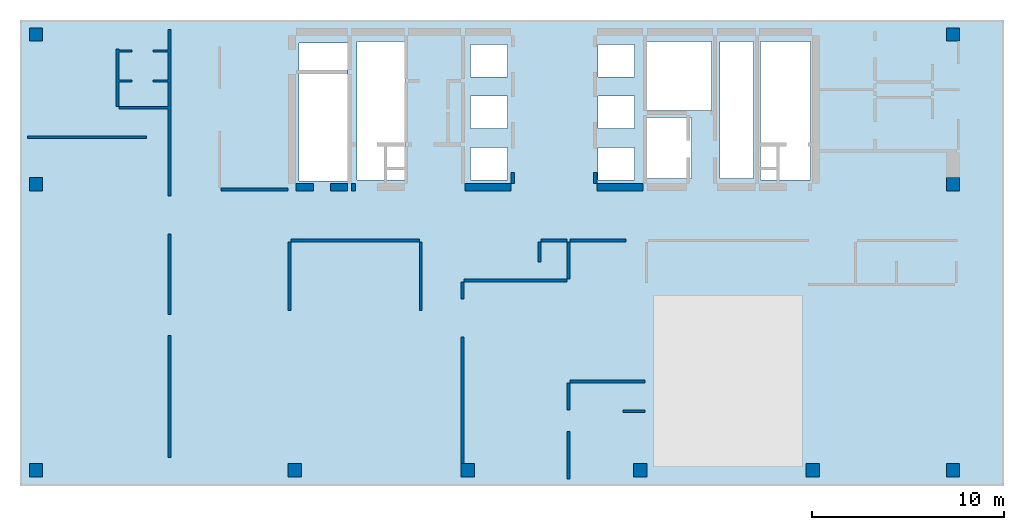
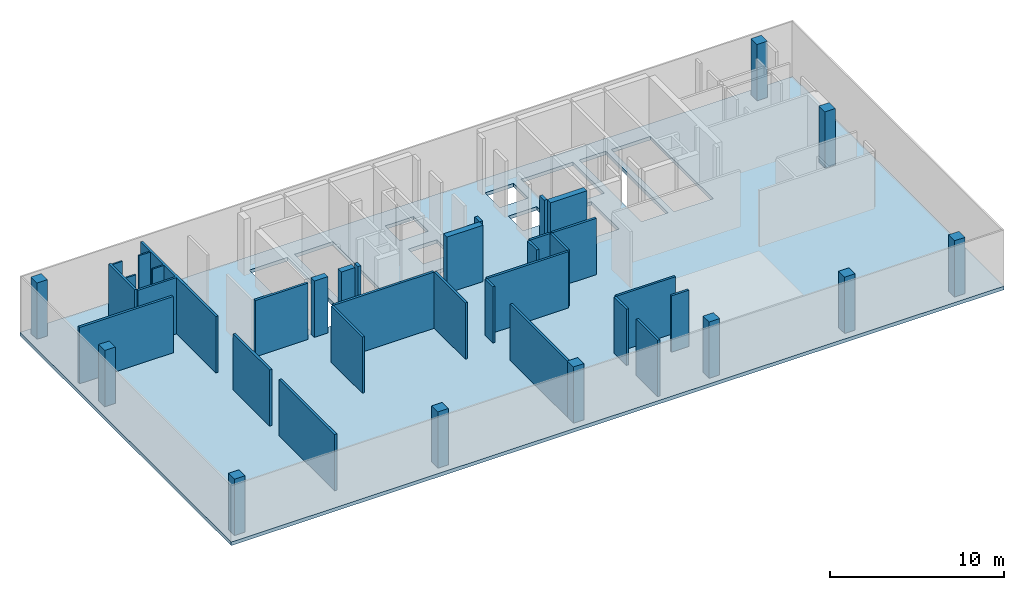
# One storey, part 1 of 5: 27 walls, 10 columns, 1 slab.
"""IFC4 building model written with IfcOpenShell, lengths in millimetres."""

from ifc_helpers import new_model, si_unit, frame, origin, place, context, project, spatial, triangles, element, save


model = new_model("IFC4")

# Units and contexts
model_context = context("Model", 3, precision=0.001, world=origin())
ifc_project = project(units=[si_unit("LENGTHUNIT", "METRE", prefix="MILLI"), si_unit("AREAUNIT", "SQUARE_METRE"), si_unit("VOLUMEUNIT", "CUBIC_METRE")], contexts=[model_context])

# Site, building, storey
site_placement = place(None, origin())
site = spatial("IfcSite", under=ifc_project, at=site_placement, Name="Site", CompositionType="ELEMENT")
building_placement = place(site_placement, origin())
building = spatial("IfcBuilding", under=site, at=building_placement, Name="INNOCEAN", CompositionType="ELEMENT")
storey_placement = place(building_placement, frame((0.0, 0.0, 76400.0)))
storey = spatial("IfcBuildingStorey", under=building, at=storey_placement, Name="F18", CompositionType="ELEMENT", Elevation=76400.0)

# Columns
column_1_placement = place(storey_placement, origin())
element("IfcColumn", 1, at=column_1_placement, inside=storey, Name="F18_Columns_F18_001", context=model_context, shape_type="Tessellation", body=[
    triangles([(40114.8, 2023.7, 0.0), (40114.8, 2023.7, 3950.0), (40114.8, 2722.3, 0.0), (40114.8, 2722.3, 3950.0), (40813.0, 2023.7, 3950.0), (40813.0, 2023.7, 0.0), (40813.0, 2722.3, 0.0), (40813.0, 2722.3, 3950.0)], [[1, 2, 3], [3, 2, 4], [5, 6, 7], [5, 7, 8], [6, 5, 1], [1, 5, 2], [8, 7, 3], [8, 3, 4], [3, 7, 1], [1, 7, 6], [8, 4, 2], [8, 2, 5]], closed=True),
])
column_2_placement = place(storey_placement, origin())
element("IfcColumn", 2, at=column_2_placement, inside=storey, Name="F18_Columns_F18_002", context=model_context, shape_type="Tessellation", body=[
    triangles([(47413.4, 24721.0, 0.0), (47413.4, 24721.0, 3950.0), (47413.4, 25419.5, 0.0), (47413.4, 25419.5, 3950.0), (48111.6, 24721.0, 3950.0), (48111.6, 24721.0, 0.0), (48111.6, 25419.5, 0.0), (48111.6, 25419.5, 3950.0)], [[1, 2, 3], [3, 2, 4], [5, 6, 7], [5, 7, 8], [6, 5, 1], [1, 5, 2], [8, 7, 3], [8, 3, 4], [1, 3, 6], [3, 7, 6], [4, 2, 5], [8, 4, 5]], closed=True),
])
column_3_placement = place(storey_placement, origin())
element("IfcColumn", 3, at=column_3_placement, inside=storey, Name="F18_Columns_F18_003", context=model_context, shape_type="Tessellation", body=[
    triangles([(47413.4, 16922.4, 0.0), (47413.4, 16922.4, 3950.0), (47413.4, 17620.9, 0.0), (47413.4, 17620.9, 3950.0), (48111.6, 16922.4, 3950.0), (48111.6, 16922.4, 0.0), (48111.6, 17620.9, 0.0), (48111.6, 17620.9, 3950.0)], [[1, 2, 3], [3, 2, 4], [5, 6, 7], [5, 7, 8], [6, 5, 1], [1, 5, 2], [8, 7, 3], [8, 3, 4], [1, 3, 6], [3, 7, 6], [4, 2, 5], [8, 4, 5]], closed=True),
])
column_4_placement = place(storey_placement, origin())
element("IfcColumn", 4, at=column_4_placement, inside=storey, Name="F18_Columns_F18_004", context=model_context, shape_type="Tessellation", body=[
    triangles([(13129.0, 2023.7, 0.0), (13129.0, 2023.7, 3950.0), (13129.0, 2722.3, 0.0), (13129.0, 2722.3, 3950.0), (13827.2, 2023.7, 3950.0), (13827.2, 2023.7, 0.0), (13827.2, 2722.3, 0.0), (13827.2, 2722.3, 3950.0)], [[1, 2, 3], [3, 2, 4], [5, 6, 7], [5, 7, 8], [6, 5, 1], [1, 5, 2], [8, 7, 3], [8, 3, 4], [3, 7, 1], [1, 7, 6], [8, 4, 2], [8, 2, 5]], closed=True),
])
column_5_placement = place(storey_placement, origin())
element("IfcColumn", 5, at=column_5_placement, inside=storey, Name="F18_Columns_F18_005", context=model_context, shape_type="Tessellation", body=[
    triangles([(47413.4, 2023.7, 0.0), (47413.4, 2023.7, 3950.0), (47413.4, 2722.3, 0.0), (47413.4, 2722.3, 3950.0), (48111.6, 2023.7, 3950.0), (48111.6, 2023.7, 0.0), (48111.6, 2722.3, 0.0), (48111.6, 2722.3, 3950.0)], [[1, 2, 3], [3, 2, 4], [5, 6, 7], [5, 7, 8], [6, 5, 1], [1, 5, 2], [8, 7, 3], [8, 3, 4], [3, 7, 1], [1, 7, 6], [8, 4, 2], [8, 2, 5]], closed=True),
])
column_6_placement = place(storey_placement, origin())
element("IfcColumn", 6, at=column_6_placement, inside=storey, Name="F18_Columns_F18_006", context=model_context, shape_type="Tessellation", body=[
    triangles([(-363.9, 2023.7, 0.0), (-363.9, 2023.7, 3950.0), (-363.9, 2722.3, 0.0), (-363.9, 2722.3, 3950.0), (334.3, 2023.7, 3950.0), (334.3, 2023.7, 0.0), (334.3, 2722.3, 0.0), (334.3, 2722.3, 3950.0)], [[1, 2, 3], [3, 2, 4], [5, 6, 7], [5, 7, 8], [6, 5, 1], [1, 5, 2], [8, 7, 3], [8, 3, 4], [3, 7, 1], [1, 7, 6], [8, 4, 2], [8, 2, 5]], closed=True),
])
column_7_placement = place(storey_placement, origin())
element("IfcColumn", 7, at=column_7_placement, inside=storey, Name="F18_Columns_F18_007", context=model_context, shape_type="Tessellation", body=[
    triangles([(-363.9, 24721.0, 0.0), (-363.9, 24721.0, 3950.0), (-363.9, 25419.5, 0.0), (-363.9, 25419.5, 3950.0), (334.3, 24721.0, 3950.0), (334.3, 24721.0, 0.0), (334.3, 25419.5, 0.0), (334.3, 25419.5, 3950.0)], [[1, 2, 3], [3, 2, 4], [5, 6, 7], [5, 7, 8], [6, 5, 1], [1, 5, 2], [8, 7, 3], [8, 3, 4], [3, 7, 1], [1, 7, 6], [8, 4, 2], [8, 2, 5]], closed=True),
])
column_8_placement = place(storey_placement, origin())
element("IfcColumn", 8, at=column_8_placement, inside=storey, Name="F18_Columns_F18_008", context=model_context, shape_type="Tessellation", body=[
    triangles([(31128.0, 2023.7, 0.0), (31128.0, 2023.7, 3950.0), (31128.0, 2722.3, 0.0), (31128.0, 2722.3, 3950.0), (31826.2, 2023.7, 3950.0), (31826.2, 2023.7, 0.0), (31826.2, 2722.3, 0.0), (31826.2, 2722.3, 3950.0)], [[1, 2, 3], [3, 2, 4], [5, 6, 7], [5, 7, 8], [6, 5, 1], [1, 5, 2], [8, 7, 3], [8, 3, 4], [3, 7, 1], [1, 7, 6], [8, 4, 2], [8, 2, 5]], closed=True),
])
column_9_placement = place(storey_placement, origin())
element("IfcColumn", 9, at=column_9_placement, inside=storey, Name="F18_Columns_F18_009", context=model_context, shape_type="Tessellation", body=[
    triangles([(22128.5, 2023.7, 0.0), (22128.5, 2023.7, 3950.0), (22128.5, 2722.3, 0.0), (22128.5, 2722.3, 3950.0), (22826.7, 2023.7, 3950.0), (22826.7, 2023.7, 0.0), (22826.7, 2722.3, 0.0), (22826.7, 2722.3, 3950.0)], [[1, 2, 3], [3, 2, 4], [5, 6, 7], [5, 7, 8], [6, 5, 1], [1, 5, 2], [8, 7, 3], [8, 3, 4], [3, 7, 1], [1, 7, 6], [8, 4, 2], [8, 2, 5]], closed=True),
])
column_10_placement = place(storey_placement, origin())
element("IfcColumn", 10, at=column_10_placement, inside=storey, Name="F18_Columns_F18_010", context=model_context, shape_type="Tessellation", body=[
    triangles([(-363.9, 16922.4, 0.0), (-363.9, 16922.4, 3950.0), (-363.9, 17620.9, 0.0), (-363.9, 17620.9, 3950.0), (334.3, 16922.4, 3950.0), (334.3, 16922.4, 0.0), (334.3, 17620.9, 0.0), (334.3, 17620.9, 3950.0)], [[1, 2, 3], [3, 2, 4], [5, 6, 7], [5, 7, 8], [6, 5, 1], [1, 5, 2], [8, 7, 3], [8, 3, 4], [3, 7, 1], [1, 7, 6], [8, 4, 2], [8, 2, 5]], closed=True),
])

# Slab
slab_placement = place(storey_placement, origin())
element("IfcSlab", 11, at=slab_placement, inside=storey, Name="F18_Slab_F18_001", context=model_context, shape_type="Tessellation", body=[
    triangles([(-846.215139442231, 25825.974025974, 0.0), (50420.3187250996, 25825.974025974, -250.0), (-846.215139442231, 25825.974025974, -250.0), (50420.3187250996, 25825.974025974, 0.0), (-846.215139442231, 1552.38095238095, 0.0), (-846.215139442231, 1552.38095238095, -250.0), (50420.3187250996, 1552.38095238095, 0.0), (50420.3187250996, 1552.38095238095, -250.0), (34130.6772908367, 20745.4545454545, -250.0), (31733.0677290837, 20745.4545454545, 0.0), (31733.0677290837, 20745.4545454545, -250.0), (34130.6772908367, 20745.4545454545, 0.0), (31733.0677290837, 17570.1298701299, 0.0), (31733.0677290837, 17570.1298701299, -250.0), (34130.6772908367, 17570.1298701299, 0.0), (34130.6772908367, 17570.1298701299, -250.0), (31168.9243027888, 19193.0735930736, 0.0), (29264.9402390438, 19193.0735930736, 0.0), (29264.9402390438, 19193.0735930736, -250.0), (31168.9243027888, 19193.0735930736, -250.0), (31168.9243027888, 17499.5670995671, 0.0), (31168.9243027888, 17499.5670995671, -250.0), (29264.9402390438, 17499.5670995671, 0.0), (29264.9402390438, 17499.5670995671, -250.0), (31168.9243027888, 21874.4588744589, 0.0), (29264.9402390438, 21874.4588744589, 0.0), (29264.9402390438, 21874.4588744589, -250.0), (31168.9243027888, 21874.4588744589, -250.0), (29264.9402390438, 20180.9523809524, 0.0), (29264.9402390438, 20180.9523809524, -250.0), (31168.9243027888, 20180.9523809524, 0.0), (31168.9243027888, 20180.9523809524, -250.0), (24540.2390438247, 19193.0735930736, -250.0), (22636.2549800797, 19193.0735930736, 0.0), (22636.2549800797, 19193.0735930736, -250.0), (24540.2390438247, 19193.0735930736, 0.0), (22636.2549800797, 17499.5670995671, 0.0), (22636.2549800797, 17499.5670995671, -250.0), (24540.2390438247, 17499.5670995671, 0.0), (24540.2390438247, 17499.5670995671, -250.0), (24540.2390438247, 21874.4588744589, -250.0), (22636.2549800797, 21874.4588744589, 0.0), (22636.2549800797, 21874.4588744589, -250.0), (24540.2390438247, 21874.4588744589, 0.0), (22636.2549800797, 20180.9523809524, 0.0), (22636.2549800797, 20180.9523809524, -250.0), (24540.2390438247, 20180.9523809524, 0.0), (24540.2390438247, 20180.9523809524, -250.0), (16219.1235059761, 24626.4069264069, 0.0), (13680.4780876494, 24626.4069264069, 0.0), (13680.4780876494, 24626.4069264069, -250.0), (16219.1235059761, 24626.4069264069, -250.0), (13680.4780876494, 17429.0043290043, 0.0), (13680.4780876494, 17429.0043290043, -250.0), (16219.1235059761, 17429.0043290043, 0.0), (16219.1235059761, 17429.0043290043, -250.0), (40336.2549800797, 24696.9696969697, -250.0), (37727.0916334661, 24696.9696969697, 0.0), (37727.0916334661, 24696.9696969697, -250.0), (40336.2549800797, 24696.9696969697, 0.0), (37727.0916334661, 17499.5670995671, 0.0), (37727.0916334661, 17499.5670995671, -250.0), (40336.2549800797, 17499.5670995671, 0.0), (40336.2549800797, 17499.5670995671, -250.0), (37374.5019920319, 24696.9696969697, 0.0), (35611.5537848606, 24696.9696969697, 0.0), (35611.5537848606, 24696.9696969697, -250.0), (37374.5019920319, 24696.9696969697, -250.0), (35611.5537848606, 17570.1298701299, 0.0), (35611.5537848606, 17570.1298701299, -250.0), (37374.5019920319, 17570.1298701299, 0.0), (37374.5019920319, 17570.1298701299, -250.0), (35188.4462151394, 24696.9696969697, 0.0), (31733.0677290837, 24696.9696969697, 0.0), (31733.0677290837, 24696.9696969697, -250.0), (35188.4462151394, 24696.9696969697, -250.0), (31733.0677290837, 21098.2683982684, 0.0), (31733.0677290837, 21098.2683982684, -250.0), (35188.4462151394, 21098.2683982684, 0.0), (35188.4462151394, 21098.2683982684, -250.0), (31168.9243027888, 24555.8441558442, 0.0), (29264.9402390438, 24555.8441558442, 0.0), (29264.9402390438, 24555.8441558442, -250.0), (31168.9243027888, 24555.8441558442, -250.0), (29264.9402390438, 22862.3376623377, 0.0), (29264.9402390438, 22862.3376623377, -250.0), (31168.9243027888, 22862.3376623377, 0.0), (31168.9243027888, 22862.3376623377, -250.0), (19251.3944223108, 24696.9696969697, 0.0), (16712.7490039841, 24696.9696969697, 0.0), (16712.7490039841, 24696.9696969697, -250.0), (19251.3944223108, 24696.9696969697, -250.0), (16712.7490039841, 17499.5670995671, 0.0), (16712.7490039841, 17499.5670995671, -250.0), (19251.3944223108, 17499.5670995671, 0.0), (19251.3944223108, 17499.5670995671, -250.0), (24540.2390438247, 24555.8441558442, -250.0), (22636.2549800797, 24555.8441558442, 0.0), (22636.2549800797, 24555.8441558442, -250.0), (24540.2390438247, 24555.8441558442, 0.0), (22636.2549800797, 22862.3376623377, 0.0), (22636.2549800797, 22862.3376623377, -250.0), (24540.2390438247, 22862.3376623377, 0.0), (24540.2390438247, 22862.3376623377, -250.0)], [[1, 2, 3], [1, 4, 2], [5, 1, 6], [6, 1, 3], [4, 7, 2], [2, 7, 8], [7, 6, 8], [7, 5, 6], [9, 10, 11], [12, 10, 9], [10, 13, 14], [10, 14, 11], [15, 12, 9], [15, 9, 16], [14, 15, 16], [13, 15, 14], [17, 18, 19], [17, 19, 20], [21, 17, 20], [21, 20, 22], [23, 21, 22], [23, 22, 24], [18, 23, 24], [18, 24, 19], [25, 26, 27], [25, 27, 28], [26, 29, 30], [26, 30, 27], [31, 25, 28], [31, 28, 32], [29, 31, 32], [29, 32, 30], [33, 34, 35], [36, 34, 33], [34, 37, 38], [34, 38, 35], [39, 36, 33], [39, 33, 40], [38, 39, 40], [37, 39, 38], [41, 42, 43], [44, 42, 41], [42, 45, 46], [42, 46, 43], [47, 44, 41], [47, 41, 48], [46, 47, 48], [45, 47, 46], [49, 50, 51], [49, 51, 52], [50, 53, 54], [50, 54, 51], [55, 49, 52], [55, 52, 56], [53, 55, 56], [53, 56, 54], [57, 58, 59], [60, 58, 57], [58, 61, 62], [58, 62, 59], [63, 60, 57], [63, 57, 64], [62, 63, 64], [61, 63, 62], [65, 66, 67], [65, 67, 68], [66, 69, 70], [66, 70, 67], [71, 65, 68], [71, 68, 72], [69, 71, 72], [69, 72, 70], [73, 74, 75], [73, 75, 76], [74, 77, 78], [74, 78, 75], [79, 73, 76], [79, 76, 80], [77, 79, 80], [77, 80, 78], [81, 82, 83], [81, 83, 84], [82, 85, 86], [82, 86, 83], [87, 81, 84], [87, 84, 88], [85, 87, 88], [85, 88, 86], [89, 90, 91], [89, 91, 92], [90, 93, 94], [90, 94, 91], [95, 89, 92], [95, 92, 96], [93, 95, 96], [93, 96, 94], [97, 98, 99], [100, 98, 97], [98, 101, 102], [98, 102, 99], [103, 100, 97], [103, 97, 104], [102, 103, 104], [101, 103, 102], [4, 63, 7], [63, 61, 7], [61, 69, 7], [71, 69, 61], [69, 15, 7], [4, 60, 63], [13, 21, 15], [15, 21, 7], [79, 12, 69], [69, 12, 15], [13, 17, 21], [21, 23, 7], [17, 10, 31], [12, 77, 10], [10, 77, 31], [66, 73, 79], [31, 18, 17], [77, 25, 31], [31, 29, 18], [77, 87, 25], [23, 39, 7], [74, 81, 87], [25, 85, 26], [87, 85, 25], [29, 36, 18], [18, 36, 23], [23, 36, 39], [74, 82, 81], [26, 47, 29], [29, 47, 36], [26, 44, 47], [36, 45, 34], [47, 45, 36], [34, 95, 37], [45, 95, 34], [85, 103, 26], [26, 103, 44], [103, 42, 44], [45, 42, 95], [85, 100, 103], [82, 100, 85], [103, 101, 42], [93, 55, 95], [39, 5, 7], [37, 5, 39], [95, 5, 37], [55, 5, 95], [55, 53, 5], [42, 89, 95], [101, 89, 42], [98, 89, 101], [90, 49, 93], [93, 49, 55], [90, 50, 49], [50, 1, 53], [53, 1, 5], [4, 1, 60], [60, 1, 58], [58, 1, 65], [65, 1, 66], [66, 1, 73], [73, 1, 74], [74, 1, 82], [82, 1, 100], [100, 1, 98], [98, 1, 89], [89, 1, 90], [90, 1, 50], [13, 10, 17], [69, 66, 79], [65, 71, 58], [58, 71, 61], [77, 74, 87], [79, 77, 12], [64, 2, 8], [62, 64, 8], [70, 62, 8], [70, 72, 62], [16, 70, 8], [57, 2, 64], [22, 14, 16], [22, 16, 8], [9, 80, 70], [9, 70, 16], [20, 14, 22], [24, 22, 8], [11, 20, 32], [78, 9, 11], [78, 11, 32], [76, 67, 80], [19, 32, 20], [28, 78, 32], [30, 32, 19], [88, 78, 28], [40, 24, 8], [84, 75, 88], [86, 28, 27], [86, 88, 28], [33, 30, 19], [33, 19, 24], [33, 24, 40], [83, 75, 84], [48, 27, 30], [48, 30, 33], [41, 27, 48], [46, 33, 35], [46, 48, 33], [96, 35, 38], [96, 46, 35], [104, 86, 27], [104, 27, 41], [43, 104, 41], [43, 46, 96], [97, 86, 104], [97, 83, 86], [102, 104, 43], [56, 94, 96], [6, 40, 8], [6, 38, 40], [6, 96, 38], [6, 56, 96], [54, 56, 6], [92, 43, 96], [92, 102, 43], [92, 99, 102], [52, 91, 94], [52, 94, 56], [51, 91, 52], [3, 51, 54], [3, 54, 6], [3, 2, 57], [3, 57, 59], [3, 59, 68], [3, 68, 67], [3, 67, 76], [3, 76, 75], [3, 75, 83], [3, 83, 97], [3, 97, 99], [3, 99, 92], [3, 92, 91], [3, 91, 51], [11, 14, 20], [67, 70, 80], [72, 68, 59], [72, 59, 62], [75, 78, 88], [78, 80, 9]], closed=True),
])

# Walls
wall_1_placement = place(storey_placement, origin())
element("IfcWall", 12, at=wall_1_placement, inside=storey, Name="F18_Walls_F18_001", context=model_context, shape_type="Tessellation", body=[
    triangles([(7010.0, 3027.1, 0.0), (7010.9, 3027.1, 0.0), (7010.9, 3027.1, 3950.0), (7010.0, 3027.1, 3950.0), (7010.0, 3025.0, 0.0), (7010.0, 3025.0, 3950.0), (6860.0, 3025.0, 3950.0), (6860.0, 3025.0, 0.0), (6860.0, 3027.1, 0.0), (6860.0, 3027.1, 3950.0), (6858.6, 3027.1, 3950.0), (6858.6, 3027.1, 0.0), (6858.6, 9390.5, 0.0), (6858.6, 9390.5, 3950.0), (7010.9, 9390.5, 0.0), (7010.9, 9390.5, 3950.0)], [[1, 2, 3], [1, 3, 4], [5, 1, 4], [5, 4, 6], [5, 6, 7], [8, 5, 7], [9, 8, 7], [9, 7, 10], [9, 10, 11], [12, 9, 11], [13, 12, 11], [13, 11, 14], [15, 13, 14], [15, 14, 16], [2, 15, 16], [2, 16, 3], [9, 1, 5], [9, 5, 8], [15, 2, 1], [15, 1, 9], [13, 9, 12], [13, 15, 9], [4, 10, 6], [6, 10, 7], [3, 16, 4], [4, 16, 10], [10, 14, 11], [16, 14, 10]], closed=True),
])
wall_2_placement = place(storey_placement, origin())
element("IfcWall", 13, at=wall_2_placement, inside=storey, Name="F18_Walls_F18_002", context=model_context, shape_type="Tessellation", body=[
    triangles([(13281.3, 10686.0, 0.0), (13281.3, 14267.8, 0.0), (13281.3, 14267.8, 3950.0), (13281.3, 10686.0, 3950.0), (13129.0, 10686.0, 0.0), (13129.0, 10686.0, 3950.0), (13129.0, 14267.8, 0.0), (13129.0, 14267.8, 3950.0)], [[1, 2, 3], [1, 3, 4], [5, 1, 4], [5, 4, 6], [7, 5, 6], [7, 6, 8], [2, 7, 8], [2, 8, 3], [2, 1, 5], [7, 2, 5], [4, 3, 6], [3, 8, 6]], closed=True),
])
wall_3_placement = place(storey_placement, origin())
element("IfcWall", 14, at=wall_3_placement, inside=storey, Name="F18_Walls_F18_003", context=model_context, shape_type="Tessellation", body=[
    triangles([(7010.9, 10495.5, 0.0), (7010.9, 14674.2, 0.0), (7010.9, 14674.2, 3950.0), (7010.9, 10495.5, 3950.0), (7010.0, 10495.5, 0.0), (7010.0, 10495.5, 3950.0), (7010.0, 10495.0, 0.0), (7010.0, 10495.0, 3950.0), (6860.0, 10495.0, 3950.0), (6860.0, 10495.0, 0.0), (6860.0, 10495.5, 0.0), (6860.0, 10495.5, 3950.0), (6858.6, 10495.5, 3950.0), (6858.6, 10495.5, 0.0), (6858.6, 14674.2, 0.0), (6858.6, 14674.2, 3950.0), (6860.0, 14674.2, 3950.0), (6860.0, 14674.2, 0.0), (6860.0, 14675.0, 0.0), (6860.0, 14675.0, 3950.0), (7010.0, 14675.0, 3950.0), (7010.0, 14675.0, 0.0), (7010.0, 14674.2, 0.0), (7010.0, 14674.2, 3950.0)], [[1, 2, 3], [1, 3, 4], [5, 1, 4], [5, 4, 6], [7, 5, 6], [7, 6, 8], [7, 8, 9], [10, 7, 9], [11, 10, 9], [11, 9, 12], [11, 12, 13], [14, 11, 13], [15, 14, 13], [15, 13, 16], [15, 16, 17], [18, 15, 17], [19, 18, 17], [19, 17, 20], [19, 20, 21], [22, 19, 21], [23, 22, 21], [23, 21, 24], [2, 23, 24], [2, 24, 3], [11, 5, 7], [11, 7, 10], [23, 2, 1], [23, 1, 5], [23, 5, 11], [18, 23, 11], [19, 22, 23], [19, 23, 18], [15, 11, 14], [15, 18, 11], [6, 12, 8], [8, 12, 9], [3, 24, 4], [4, 24, 6], [6, 24, 12], [24, 17, 12], [21, 20, 24], [24, 20, 17], [12, 16, 13], [17, 16, 12]], closed=True),
])
wall_4_placement = place(storey_placement, origin())
element("IfcWall", 15, at=wall_4_placement, inside=storey, Name="F18_Walls_F18_004", context=model_context, shape_type="Tessellation", body=[
    triangles([(19958.0, 14267.8, 0.0), (19958.0, 14420.2, 0.0), (19958.0, 14420.2, 3950.0), (19958.0, 14267.8, 3950.0), (13281.3, 14267.8, 0.0), (13281.3, 14267.8, 3950.0), (13281.3, 14420.2, 0.0), (13281.3, 14420.2, 3950.0)], [[1, 2, 3], [1, 3, 4], [5, 1, 4], [5, 4, 6], [7, 5, 6], [7, 6, 8], [3, 7, 8], [2, 7, 3], [7, 2, 1], [7, 1, 5], [3, 8, 4], [4, 8, 6]], closed=True),
])
wall_5_placement = place(storey_placement, origin())
element("IfcWall", 16, at=wall_5_placement, inside=storey, Name="F18_Walls_F18_005", context=model_context, shape_type="Tessellation", body=[
    triangles([(13129.0, 16922.4, 0.0), (13129.0, 17074.8, 0.0), (13129.0, 17074.8, 3950.0), (13129.0, 16922.4, 3950.0), (9638.4, 16922.4, 3950.0), (9638.4, 16922.4, 0.0), (9638.4, 17074.8, 0.0), (9638.4, 17074.8, 3950.0)], [[1, 2, 3], [1, 3, 4], [1, 4, 5], [6, 1, 5], [7, 6, 5], [7, 5, 8], [7, 8, 3], [2, 7, 3], [7, 2, 1], [7, 1, 6], [3, 8, 4], [4, 8, 5]], closed=True),
])
wall_6_placement = place(storey_placement, origin())
element("IfcWall", 17, at=wall_6_placement, inside=storey, Name="F18_Walls_F18_006", context=model_context, shape_type="Tessellation", body=[
    triangles([(16632.4, 16922.4, 0.0), (16632.4, 16922.4, 3950.0), (16429.3, 16922.4, 3950.0), (16429.3, 16922.4, 0.0), (16429.3, 17316.1, 3950.0), (16429.3, 17316.1, 0.0), (16632.4, 17316.1, 3950.0), (16632.4, 17316.1, 0.0)], [[1, 2, 3], [4, 1, 3], [4, 3, 5], [6, 4, 5], [6, 5, 7], [8, 6, 7], [8, 7, 2], [1, 8, 2], [6, 1, 4], [6, 8, 1], [2, 5, 3], [7, 5, 2]], closed=True),
])
wall_7_placement = place(storey_placement, origin())
element("IfcWall", 18, at=wall_7_placement, inside=storey, Name="F18_Walls_F18_007", context=model_context, shape_type="Tessellation", body=[
    triangles([(15337.6, 16922.4, 0.0), (16226.2, 16922.4, 0.0), (16226.2, 16922.4, 3950.0), (15337.6, 16922.4, 3950.0), (15337.6, 17316.1, 3950.0), (15337.6, 17316.1, 0.0), (16226.2, 17316.1, 0.0), (16226.2, 17316.1, 3950.0)], [[1, 2, 3], [1, 3, 4], [1, 4, 5], [6, 1, 5], [7, 6, 5], [7, 5, 8], [7, 8, 3], [2, 7, 3], [6, 2, 1], [6, 7, 2], [3, 5, 4], [8, 5, 3]], closed=True),
])
wall_8_placement = place(storey_placement, origin())
element("IfcWall", 19, at=wall_8_placement, inside=storey, Name="F18_Walls_F18_008", context=model_context, shape_type="Tessellation", body=[
    triangles([(14436.4, 17316.1, 0.0), (14436.4, 17316.1, 3950.0), (14436.4, 16922.4, 3950.0), (14436.4, 16922.4, 0.0), (13535.2, 16922.4, 0.0), (13535.2, 16922.4, 3950.0), (13535.2, 17316.1, 3950.0), (13535.2, 17316.1, 0.0)], [[1, 2, 3], [4, 1, 3], [5, 4, 3], [5, 3, 6], [5, 6, 7], [8, 5, 7], [1, 8, 7], [1, 7, 2], [8, 1, 4], [8, 4, 5], [2, 7, 3], [3, 7, 6]], closed=True),
])
wall_9_placement = place(storey_placement, origin())
element("IfcWall", 20, at=wall_9_placement, inside=storey, Name="F18_Walls_F18_012", context=model_context, shape_type="Tessellation", body=[
    triangles([(-465.0, 19640.4, 0.0), (-465.0, 19640.0, 0.0), (-465.0, 19640.0, 3950.0), (-465.0, 19640.4, 3950.0), (-465.4, 19640.4, 0.0), (-465.4, 19640.4, 3950.0), (-465.4, 19792.9, 0.0), (-465.4, 19792.9, 3950.0), (-465.0, 19792.9, 0.0), (-465.0, 19792.9, 3950.0), (-465.0, 19795.0, 0.0), (-465.0, 19795.0, 3950.0), (5755.0, 19795.0, 0.0), (5755.0, 19795.0, 3950.0), (5755.0, 19640.0, 3950.0), (5755.0, 19640.0, 0.0)], [[1, 2, 3], [1, 3, 4], [5, 1, 4], [5, 4, 6], [7, 5, 6], [7, 6, 8], [9, 7, 8], [9, 8, 10], [11, 9, 10], [11, 10, 12], [13, 11, 12], [13, 12, 14], [13, 14, 15], [16, 13, 15], [2, 16, 15], [2, 15, 3], [1, 16, 2], [9, 13, 16], [9, 16, 1], [7, 1, 5], [7, 9, 1], [11, 13, 9], [15, 4, 3], [14, 10, 15], [15, 10, 4], [4, 8, 6], [10, 8, 4], [14, 12, 10]], closed=True),
])
wall_10_placement = place(storey_placement, origin())
element("IfcWall", 21, at=wall_10_placement, inside=storey, Name="F18_Walls_F18_014", context=model_context, shape_type="Tessellation", body=[
    triangles([(6858.6, 22599.8, 0.0), (6858.6, 21317.0, 0.0), (6858.6, 21317.0, 3950.0), (6858.6, 22599.8, 3950.0), (6084.3, 22599.8, 0.0), (6084.3, 22599.8, 3950.0), (6084.3, 22701.5, 3950.0), (6084.3, 22701.5, 0.0), (6858.6, 22701.5, 0.0), (6858.6, 22701.5, 3950.0), (6858.6, 24149.4, 0.0), (6858.6, 24149.4, 3950.0), (6084.3, 24149.4, 0.0), (6084.3, 24149.4, 3950.0), (6084.3, 24251.0, 0.0), (6084.3, 24251.0, 3950.0), (6858.6, 24251.0, 0.0), (6858.6, 24251.0, 3950.0), (6858.6, 25317.9, 0.0), (6858.6, 25317.9, 3950.0), (6860.0, 25317.9, 3950.0), (6860.0, 25317.9, 0.0), (6860.0, 25320.0, 0.0), (6860.0, 25320.0, 3950.0), (7010.0, 25320.0, 3950.0), (7010.0, 25320.0, 0.0), (7010.0, 25317.9, 0.0), (7010.0, 25317.9, 3950.0), (7010.9, 25317.9, 0.0), (7010.9, 25317.9, 3950.0), (7010.9, 16668.3, 0.0), (7010.9, 16668.3, 3950.0), (6858.6, 16668.3, 0.0), (6858.6, 16668.3, 3950.0), (6858.6, 21177.3, 0.0), (6858.6, 21177.3, 3950.0), (4307.2, 21177.3, 3950.0), (4307.2, 21177.3, 0.0), (4307.2, 21317.0, 3950.0), (4307.2, 21317.0, 0.0)], [[1, 2, 3], [1, 3, 4], [5, 1, 4], [5, 4, 6], [5, 6, 7], [8, 5, 7], [9, 8, 7], [9, 7, 10], [11, 9, 10], [11, 10, 12], [13, 11, 12], [13, 12, 14], [15, 13, 14], [15, 14, 16], [17, 15, 16], [17, 16, 18], [19, 17, 18], [19, 18, 20], [19, 20, 21], [22, 19, 21], [23, 22, 21], [23, 21, 24], [23, 24, 25], [26, 23, 25], [27, 26, 25], [27, 25, 28], [29, 27, 28], [29, 28, 30], [31, 29, 30], [31, 30, 32], [33, 31, 32], [33, 32, 34], [35, 33, 34], [35, 34, 36], [35, 36, 37], [38, 35, 37], [38, 37, 39], [40, 38, 39], [40, 39, 3], [2, 40, 3], [35, 31, 33], [8, 1, 5], [8, 9, 1], [40, 35, 38], [40, 2, 35], [15, 11, 13], [15, 17, 11], [29, 11, 17], [27, 29, 17], [22, 27, 17], [19, 22, 17], [23, 26, 27], [23, 27, 22], [29, 31, 35], [29, 35, 2], [29, 2, 1], [29, 1, 9], [29, 9, 11], [32, 36, 34], [4, 7, 6], [10, 7, 4], [36, 39, 37], [3, 39, 36], [12, 16, 14], [18, 16, 12], [12, 30, 18], [30, 28, 18], [28, 21, 18], [21, 20, 18], [25, 24, 28], [28, 24, 21], [32, 30, 36], [36, 30, 3], [3, 30, 4], [4, 30, 10], [10, 30, 12]], closed=True),
])
wall_11_placement = place(storey_placement, origin())
element("IfcWall", 22, at=wall_11_placement, inside=storey, Name="F18_Walls_F18_015", context=model_context, shape_type="Tessellation", body=[
    triangles([(4307.2, 24327.2, 0.0), (4154.9, 24327.2, 0.0), (4154.9, 24327.2, 3950.0), (4307.2, 24327.2, 3950.0), (4307.2, 24251.0, 0.0), (4307.2, 24251.0, 3950.0), (4980.0, 24251.0, 3950.0), (4980.0, 24251.0, 0.0), (4980.0, 24250.0, 0.0), (4980.0, 24250.0, 3950.0), (4980.0, 24150.0, 3950.0), (4980.0, 24150.0, 0.0), (4980.0, 24149.4, 0.0), (4980.0, 24149.4, 3950.0), (4307.2, 24149.4, 3950.0), (4307.2, 24149.4, 0.0), (4307.2, 22701.5, 0.0), (4307.2, 22701.5, 3950.0), (4980.0, 22701.5, 3950.0), (4980.0, 22701.5, 0.0), (4980.0, 22700.0, 0.0), (4980.0, 22700.0, 3950.0), (4980.0, 22600.0, 3950.0), (4980.0, 22600.0, 0.0), (4980.0, 22599.8, 0.0), (4980.0, 22599.8, 3950.0), (4307.2, 22599.8, 3950.0), (4307.2, 22599.8, 0.0), (4307.2, 21317.0, 0.0), (4307.2, 21317.0, 3950.0), (4154.9, 21317.0, 0.0), (4154.9, 21317.0, 3950.0)], [[1, 2, 3], [1, 3, 4], [5, 1, 4], [5, 4, 6], [5, 6, 7], [8, 5, 7], [9, 8, 7], [9, 7, 10], [9, 10, 11], [12, 9, 11], [13, 12, 11], [13, 11, 14], [13, 14, 15], [16, 13, 15], [17, 16, 15], [17, 15, 18], [17, 18, 19], [20, 17, 19], [21, 20, 19], [21, 19, 22], [21, 22, 23], [24, 21, 23], [25, 24, 23], [25, 23, 26], [25, 26, 27], [28, 25, 27], [29, 28, 27], [29, 27, 30], [31, 29, 30], [31, 30, 32], [2, 31, 32], [2, 32, 3], [28, 21, 24], [28, 24, 25], [28, 29, 31], [17, 20, 21], [17, 21, 28], [16, 9, 12], [16, 12, 13], [5, 8, 9], [5, 9, 16], [2, 1, 5], [2, 16, 17], [2, 5, 16], [31, 2, 17], [31, 17, 28], [22, 27, 23], [23, 27, 26], [30, 27, 32], [19, 18, 22], [22, 18, 27], [10, 15, 11], [11, 15, 14], [7, 6, 10], [10, 6, 15], [4, 3, 6], [15, 3, 18], [6, 3, 15], [3, 32, 18], [18, 32, 27]], closed=True),
])
wall_12_placement = place(storey_placement, origin())
element("IfcWall", 23, at=wall_12_placement, inside=storey, Name="F18_Walls_F18_022", context=model_context, shape_type="Tessellation", body=[
    triangles([(27650.0, 4375.0, 0.0), (27650.0, 4375.0, 3950.0), (27800.0, 4375.0, 3950.0), (27800.0, 4375.0, 0.0), (27800.0, 4373.5, 0.0), (27800.0, 4373.5, 3950.0), (27802.4, 4373.5, 0.0), (27802.4, 4373.5, 3950.0), (27802.4, 1922.1, 0.0), (27802.4, 1922.1, 3950.0), (27800.0, 1922.1, 0.0), (27800.0, 1922.1, 3950.0), (27800.0, 1920.0, 0.0), (27800.0, 1920.0, 3950.0), (27650.0, 1920.0, 3950.0), (27650.0, 1920.0, 0.0)], [[1, 2, 3], [4, 1, 3], [5, 4, 3], [5, 3, 6], [7, 5, 6], [7, 6, 8], [9, 7, 8], [9, 8, 10], [11, 9, 10], [11, 10, 12], [13, 11, 12], [13, 12, 14], [13, 14, 15], [16, 13, 15], [1, 16, 15], [1, 15, 2], [16, 11, 13], [7, 9, 11], [5, 7, 11], [1, 4, 5], [1, 11, 16], [1, 5, 11], [12, 15, 14], [10, 8, 12], [8, 6, 12], [3, 2, 6], [12, 2, 15], [6, 2, 12]], closed=True),
])
wall_13_placement = place(storey_placement, origin())
element("IfcWall", 24, at=wall_13_placement, inside=storey, Name="F18_Walls_F18_023", context=model_context, shape_type="Tessellation", body=[
    triangles([(22280.0, 2722.3, 0.0), (22280.8, 2722.3, 0.0), (22280.8, 2722.3, 3950.0), (22280.0, 2722.3, 3950.0), (22280.0, 2720.0, 0.0), (22280.0, 2720.0, 3950.0), (22130.0, 2720.0, 3950.0), (22130.0, 2720.0, 0.0), (22130.0, 2722.3, 0.0), (22130.0, 2722.3, 3950.0), (22128.5, 2722.3, 0.0), (22128.5, 2722.3, 3950.0), (22128.5, 9301.6, 0.0), (22128.5, 9301.6, 3950.0), (22280.8, 9301.6, 0.0), (22280.8, 9301.6, 3950.0)], [[1, 2, 3], [1, 3, 4], [5, 1, 4], [5, 4, 6], [5, 6, 7], [8, 5, 7], [9, 8, 7], [9, 7, 10], [11, 9, 10], [11, 10, 12], [13, 11, 12], [13, 12, 14], [15, 13, 14], [15, 14, 16], [2, 15, 16], [2, 16, 3], [9, 1, 5], [9, 5, 8], [15, 2, 1], [15, 1, 9], [13, 9, 11], [13, 15, 9], [4, 10, 6], [6, 10, 7], [3, 16, 4], [4, 16, 10], [10, 14, 12], [16, 14, 10]], closed=True),
])
wall_14_placement = place(storey_placement, origin())
element("IfcWall", 25, at=wall_14_placement, inside=storey, Name="F18_Walls_F18_024", context=model_context, shape_type="Tessellation", body=[
    triangles([(27802.4, 5516.6, 0.0), (27802.4, 6926.4, 0.0), (27802.4, 6926.4, 3950.0), (27802.4, 5516.6, 3950.0), (27650.1, 5516.6, 0.0), (27650.1, 5516.6, 3950.0), (27650.1, 6926.4, 0.0), (27650.1, 6926.4, 3950.0)], [[1, 2, 3], [1, 3, 4], [5, 1, 4], [5, 4, 6], [7, 5, 6], [7, 6, 8], [2, 7, 8], [2, 8, 3], [7, 2, 1], [7, 1, 5], [3, 8, 4], [4, 8, 6]], closed=True),
])
wall_15_placement = place(storey_placement, origin())
element("IfcWall", 26, at=wall_15_placement, inside=storey, Name="F18_Walls_F18_025", context=model_context, shape_type="Tessellation", body=[
    triangles([(22280.8, 11295.7, 0.0), (22280.8, 12172.1, 0.0), (22280.8, 12172.1, 3950.0), (22280.8, 11295.7, 3950.0), (22128.5, 11295.7, 0.0), (22128.5, 11295.7, 3950.0), (22128.5, 12172.1, 0.0), (22128.5, 12172.1, 3950.0)], [[1, 2, 3], [1, 3, 4], [5, 1, 4], [5, 4, 6], [7, 5, 6], [7, 6, 8], [2, 7, 8], [2, 8, 3], [7, 2, 1], [7, 1, 5], [3, 8, 4], [4, 8, 6]], closed=True),
])
wall_16_placement = place(storey_placement, origin())
element("IfcWall", 27, at=wall_16_placement, inside=storey, Name="F18_Walls_F18_026", context=model_context, shape_type="Tessellation", body=[
    triangles([(27650.1, 12324.5, 0.0), (22280.8, 12324.5, 0.0), (22280.8, 12324.5, 3950.0), (27650.1, 12324.5, 3950.0), (27650.1, 12172.1, 0.0), (27650.1, 12172.1, 3950.0), (22280.8, 12172.1, 0.0), (22280.8, 12172.1, 3950.0)], [[1, 2, 3], [1, 3, 4], [5, 1, 4], [5, 4, 6], [7, 5, 6], [7, 6, 8], [2, 7, 8], [2, 8, 3], [7, 1, 5], [2, 1, 7], [4, 8, 6], [4, 3, 8]], closed=True),
])
wall_17_placement = place(storey_placement, origin())
element("IfcWall", 28, at=wall_17_placement, inside=storey, Name="F18_Walls_F18_027", context=model_context, shape_type="Tessellation", body=[
    triangles([(19958.0, 10686.0, 0.0), (20110.3, 10686.0, 0.0), (20110.3, 10686.0, 3950.0), (19958.0, 10686.0, 3950.0), (19958.0, 14267.8, 0.0), (19958.0, 14267.8, 3950.0), (20110.3, 14267.8, 0.0), (20110.3, 14267.8, 3950.0)], [[1, 2, 3], [1, 3, 4], [5, 1, 4], [5, 4, 6], [7, 5, 6], [7, 6, 8], [2, 7, 8], [2, 8, 3], [7, 2, 1], [5, 7, 1], [3, 8, 4], [8, 6, 4]], closed=True),
])
wall_18_placement = place(storey_placement, origin())
element("IfcWall", 29, at=wall_18_placement, inside=storey, Name="F18_Walls_F18_028", context=model_context, shape_type="Tessellation", body=[
    triangles([(27650.1, 12324.5, 0.0), (27802.4, 12324.5, 0.0), (27802.4, 12324.5, 3950.0), (27650.1, 12324.5, 3950.0), (27650.1, 14267.8, 0.0), (27650.1, 14267.8, 3950.0), (27802.4, 14267.8, 0.0), (27802.4, 14267.8, 3950.0)], [[1, 2, 3], [1, 3, 4], [5, 1, 4], [5, 4, 6], [7, 5, 6], [7, 6, 8], [2, 7, 8], [2, 8, 3], [5, 2, 1], [5, 7, 2], [3, 6, 4], [8, 6, 3]], closed=True),
])
wall_19_placement = place(storey_placement, origin())
element("IfcWall", 30, at=wall_19_placement, inside=storey, Name="F18_Walls_F18_029", context=model_context, shape_type="Tessellation", body=[
    triangles([(26304.6, 14267.8, 0.0), (26152.3, 14267.8, 0.0), (26152.3, 14267.8, 3950.0), (26304.6, 14267.8, 3950.0), (26304.6, 13226.3, 0.0), (26304.6, 13226.3, 3950.0), (26152.3, 13226.3, 0.0), (26152.3, 13226.3, 3950.0)], [[1, 2, 3], [1, 3, 4], [5, 1, 4], [5, 4, 6], [7, 5, 6], [7, 6, 8], [2, 7, 8], [2, 8, 3], [2, 1, 5], [2, 5, 7], [4, 3, 6], [6, 3, 8]], closed=True),
])
wall_20_placement = place(storey_placement, origin())
element("IfcWall", 31, at=wall_20_placement, inside=storey, Name="F18_Walls_F18_030", context=model_context, shape_type="Tessellation", body=[
    triangles([(26304.6, 14267.8, 0.0), (27650.1, 14267.8, 0.0), (27650.1, 14267.8, 3950.0), (26304.6, 14267.8, 3950.0), (26304.6, 14420.2, 0.0), (26304.6, 14420.2, 3950.0), (27650.1, 14420.2, 0.0), (27650.1, 14420.2, 3950.0)], [[1, 2, 3], [1, 3, 4], [5, 1, 4], [5, 4, 6], [7, 5, 6], [7, 6, 8], [2, 7, 8], [2, 8, 3], [1, 7, 2], [5, 7, 1], [8, 4, 3], [8, 6, 4]], closed=True),
])
wall_21_placement = place(storey_placement, origin())
element("IfcWall", 32, at=wall_21_placement, inside=storey, Name="F18_Walls_F18_031", context=model_context, shape_type="Tessellation", body=[
    triangles([(24730.6, 17316.1, 0.0), (24730.6, 17316.1, 3950.0), (24730.6, 16922.4, 3950.0), (24730.6, 16922.4, 0.0), (22331.6, 16922.4, 0.0), (22331.6, 16922.4, 3950.0), (22331.6, 17316.1, 3950.0), (22331.6, 17316.1, 0.0)], [[1, 2, 3], [4, 1, 3], [5, 4, 3], [5, 3, 6], [5, 6, 7], [8, 5, 7], [1, 8, 7], [1, 7, 2], [8, 1, 4], [8, 4, 5], [2, 7, 3], [3, 7, 6]], closed=True),
])
wall_22_placement = place(storey_placement, origin())
element("IfcWall", 33, at=wall_22_placement, inside=storey, Name="F18_Walls_F18_032", context=model_context, shape_type="Tessellation", body=[
    triangles([(24921.0, 17875.0, 0.0), (24921.0, 17875.0, 3950.0), (24921.0, 17316.1, 3950.0), (24921.0, 17316.1, 0.0), (24730.6, 17316.1, 0.0), (24730.6, 17316.1, 3950.0), (24730.6, 17875.0, 3950.0), (24730.6, 17875.0, 0.0)], [[1, 2, 3], [4, 1, 3], [5, 4, 3], [5, 3, 6], [5, 6, 7], [8, 5, 7], [1, 8, 7], [1, 7, 2], [8, 1, 4], [8, 4, 5], [2, 7, 3], [3, 7, 6]], closed=True),
])
wall_23_placement = place(storey_placement, origin())
element("IfcWall", 34, at=wall_23_placement, inside=storey, Name="F18_Walls_F18_047", context=model_context, shape_type="Tessellation", body=[
    triangles([(31724.6, 5515.0, 0.0), (31724.6, 5516.6, 0.0), (31724.6, 5516.6, 3950.0), (31724.6, 5515.0, 3950.0), (31725.0, 5515.0, 0.0), (31725.0, 5515.0, 3950.0), (31725.0, 5375.0, 0.0), (31725.0, 5375.0, 3950.0), (30570.0, 5375.0, 0.0), (30570.0, 5375.0, 3950.0), (30570.0, 5376.9, 3950.0), (30570.0, 5376.9, 0.0), (30569.5, 5376.9, 0.0), (30569.5, 5376.9, 3950.0), (30569.5, 5516.6, 3950.0), (30569.5, 5516.6, 0.0)], [[1, 2, 3], [1, 3, 4], [5, 1, 4], [5, 4, 6], [7, 5, 6], [7, 6, 8], [9, 7, 8], [9, 8, 10], [9, 10, 11], [12, 9, 11], [13, 12, 11], [13, 11, 14], [13, 14, 15], [16, 13, 15], [2, 16, 15], [2, 15, 3], [1, 5, 7], [12, 7, 9], [12, 1, 7], [16, 2, 1], [16, 12, 13], [16, 1, 12], [6, 4, 8], [8, 11, 10], [4, 11, 8], [3, 15, 4], [11, 15, 14], [4, 15, 11]], closed=True),
])
wall_24_placement = place(storey_placement, origin())
element("IfcWall", 35, at=wall_24_placement, inside=storey, Name="F18_Walls_F18_048", context=model_context, shape_type="Tessellation", body=[
    triangles([(31724.6, 6926.4, 0.0), (31724.6, 7066.2, 0.0), (31724.6, 7066.2, 3950.0), (31724.6, 6926.4, 3950.0), (27802.4, 6926.4, 0.0), (27802.4, 6926.4, 3950.0), (27802.4, 7066.2, 0.0), (27802.4, 7066.2, 3950.0)], [[1, 2, 3], [1, 3, 4], [5, 1, 4], [5, 4, 6], [7, 5, 6], [7, 6, 8], [2, 7, 8], [2, 8, 3], [7, 2, 1], [7, 1, 5], [3, 8, 4], [4, 8, 6]], closed=True),
])
wall_25_placement = place(storey_placement, origin())
element("IfcWall", 36, at=wall_25_placement, inside=storey, Name="F18_Walls_F18_050", context=model_context, shape_type="Tessellation", body=[
    triangles([(30721.8, 14267.8, 0.0), (30721.8, 14420.2, 0.0), (30721.8, 14420.2, 3950.0), (30721.8, 14267.8, 3950.0), (27802.4, 14267.8, 0.0), (27802.4, 14267.8, 3950.0), (27802.4, 14420.2, 0.0), (27802.4, 14420.2, 3950.0)], [[1, 2, 3], [1, 3, 4], [5, 1, 4], [5, 4, 6], [7, 5, 6], [7, 6, 8], [2, 7, 8], [2, 8, 3], [7, 2, 1], [7, 1, 5], [3, 8, 4], [4, 8, 6]], closed=True),
])
wall_26_placement = place(storey_placement, origin())
element("IfcWall", 37, at=wall_26_placement, inside=storey, Name="F18_Walls_F18_054", context=model_context, shape_type="Tessellation", body=[
    triangles([(31623.1, 17316.1, 0.0), (31623.1, 17316.1, 3950.0), (31623.1, 16922.4, 3950.0), (31623.1, 16922.4, 0.0), (29224.0, 16922.4, 0.0), (29224.0, 16922.4, 3950.0), (29224.0, 17316.1, 3950.0), (29224.0, 17316.1, 0.0)], [[1, 2, 3], [4, 1, 3], [5, 4, 3], [5, 3, 6], [5, 6, 7], [8, 5, 7], [1, 8, 7], [1, 7, 2], [8, 1, 4], [8, 4, 5], [2, 7, 3], [3, 7, 6]], closed=True),
])
wall_27_placement = place(storey_placement, origin())
element("IfcWall", 38, at=wall_27_placement, inside=storey, Name="F18_Walls_F18_056", context=model_context, shape_type="Tessellation", body=[
    triangles([(29224.0, 17875.0, 0.0), (29224.0, 17875.0, 3950.0), (29224.0, 17316.1, 3950.0), (29224.0, 17316.1, 0.0), (29020.9, 17316.1, 0.0), (29020.9, 17316.1, 3950.0), (29020.9, 17875.0, 3950.0), (29020.9, 17875.0, 0.0)], [[1, 2, 3], [4, 1, 3], [5, 4, 3], [5, 3, 6], [5, 6, 7], [8, 5, 7], [1, 8, 7], [1, 7, 2], [8, 1, 4], [8, 4, 5], [2, 7, 3], [3, 7, 6]], closed=True),
])

save(model, "model.ifc")
